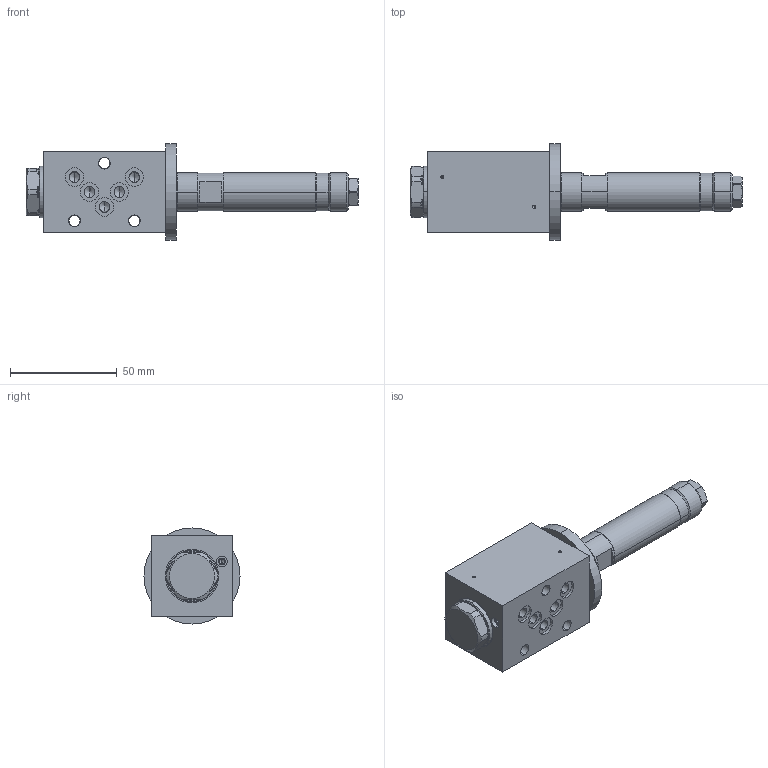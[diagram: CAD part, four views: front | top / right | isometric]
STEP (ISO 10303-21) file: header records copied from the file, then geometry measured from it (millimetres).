
FILE_DESCRIPTION (( 'STEP AP214' ), '1' );
FILE_NAME ('WDYFA04-4_2-Bside.STEP', '2016-04-06T09:47:17', ( '' ), ( '' ), 'SwSTEP 2.0', 'SolidWorks 2014', '' );
FILE_SCHEMA (( 'AUTOMOTIVE_DESIGN' ));
Length unit declared in the file: millimetre
Products named in the file (2): WDYFA04-4_2-Bside
Bounding box: 155.4 x 45 x 45 mm (x, y, z)
Volume: 109063.7 mm3; surface area: 25072.2 mm2
Topology: 2 solids, 2 shells, 334 faces, 815 edges, 524 vertices
Faces by surface type: plane 128, cylinder 110, cone 58, bspline 24, torus 14
Entity records: 15364 total; most frequent: CARTESIAN_POINT 3931, ORIENTED_EDGE 1598, DIRECTION 1556, EDGE_CURVE 799, AXIS2_PLACEMENT_3D 591, VERTEX_POINT 524, EDGE_LOOP 397, LINE 374
